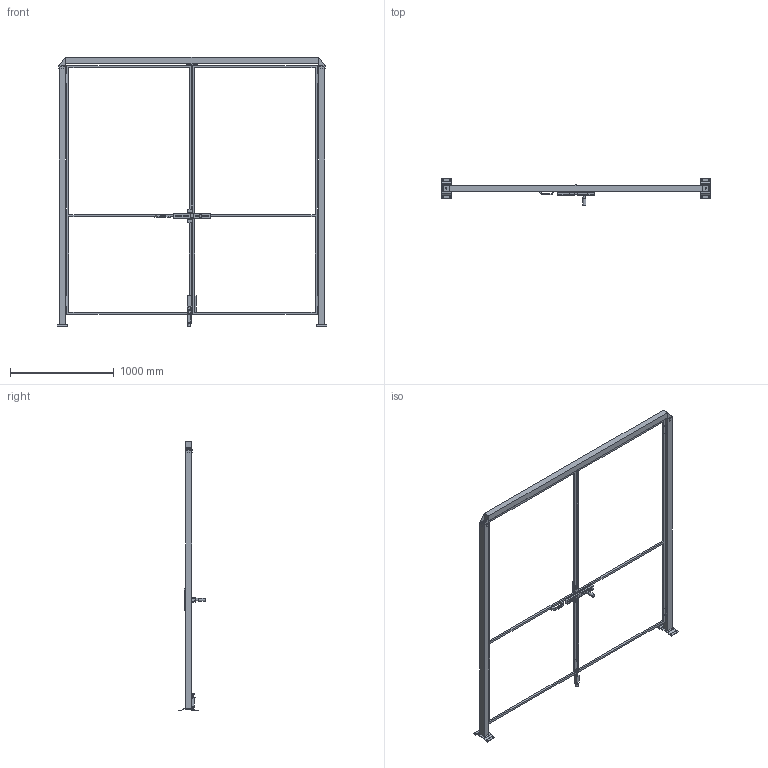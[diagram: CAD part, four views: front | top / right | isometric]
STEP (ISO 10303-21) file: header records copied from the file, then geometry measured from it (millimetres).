
FILE_DESCRIPTION(/* description */ (''),/* implementation_level */ '2;1');
FILE_NAME(/* name */ 'C:\SafeGuarding\ELABORATI\VZOR§DVOUKŘÍDLÉ_2025-02-03-08-41-54.stp',/* time_stamp */ '2025-02-03T08:41:59+01:00',/* author */ ('admin'),/* organization */ (''),/* preprocessor_version */ 'ST-DEVELOPER v18.1',/* originating_system */ 'AutoCAD Mechanical',/* authorisation */ '');
FILE_SCHEMA (('AUTOMOTIVE_DESIGN { 1 0 10303 214 3 1 1 }'));
Length unit declared in the file: millimetre
Products named in the file (5): Product; *U4; DATI_PORTA; P_VFMA.ME60SDU.2520; VFPA.REPE2012002400
Assembly tree (6 placements, depth 2):
  Product
    P_VFMA.ME60SDU.2520  x2
    *U4
    DATI_PORTA
    VFPA.REPE2012002400  x2
Bounding box: 2605 x 255.79 x 2600.5 mm (x, y, z)
Volume: 34659034.6 mm3; surface area: 3698967.4 mm2
Topology: 27 solids, 38 shells, 396 faces, 1348 edges, 1286 vertices
Faces by surface type: plane 352, cylinder 42, cone 2
Full cylindrical faces by diameter (mm): 11 x25, 12 x1, 14 x2, 24 x1, 30 x1
Entity records: 11890 total; most frequent: CARTESIAN_POINT 2500, DIRECTION 1793, ORIENTED_EDGE 1700, EDGE_CURVE 899, LINE 847, VECTOR 847, VERTEX_POINT 635, AXIS2_PLACEMENT_3D 473
